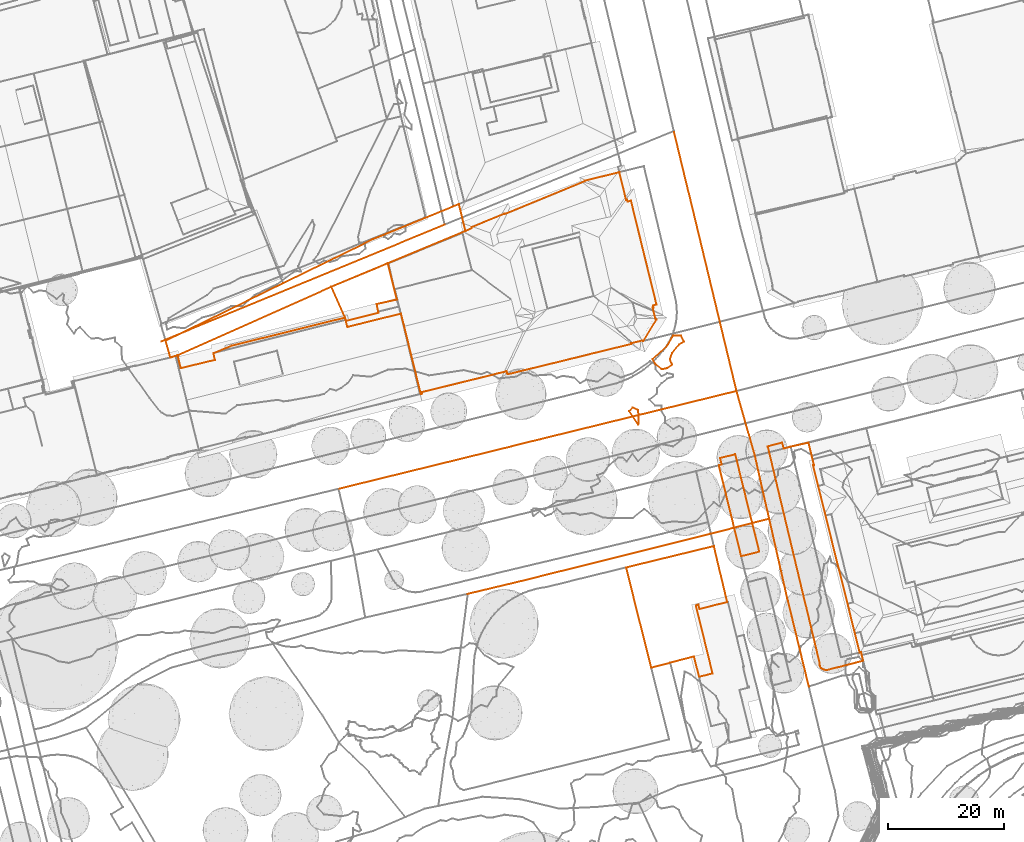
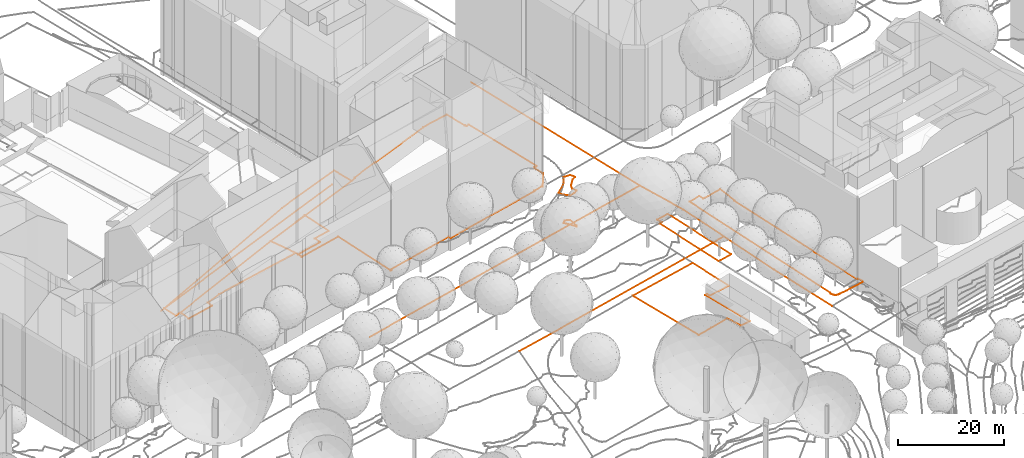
# Not in any storey, part 173 of 494: 14 proxies.
"""IFC2X3 model written with IfcOpenShell, lengths in metres."""

from ifc_helpers import new_model, entity, si_unit, frame, origin_with_axes, place, context, subcontext, project, element, save


model = new_model("IFC2X3")

# Units and contexts
model_context = context("Model", 3, precision=1e-05, world=origin_with_axes())
body_context = subcontext(model_context, "Body", "Model", "MODEL_VIEW")
ifc_project = project(units=[si_unit("AREAUNIT", "SQUARE_METRE"), si_unit("LENGTHUNIT", "METRE")], contexts=[model_context])

# Proxies
proxy_1_placement = place(None, frame((277.8057320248, 418.383730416, 541.403), z_axis=(0.0, 0.0, 1.0), x_axis=(1.0, 0.0, 0.0)))
element("IfcBuildingElementProxy", 1, at=proxy_1_placement, Name="Road 7", ObjectType="NOTDEFINED", context=body_context, shape_type="GeometricCurveSet", body=[
    entity("IfcGeometricCurveSet", [entity("IfcPolyline", [entity("IfcCartesianPoint", [0.0, 0.0, 0.0]), entity("IfcCartesianPoint", [10.7860000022, -44.7249986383, -0.402])])]),
])
proxy_2_placement = place(None, frame((220.1377320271, 356.831732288, 540.343), z_axis=(0.0, 0.0, 1.0), x_axis=(1.0, 0.0, 0.0)))
element("IfcBuildingElementProxy", 2, at=proxy_2_placement, Name="Road 9", ObjectType="NOTDEFINED", context=body_context, shape_type="GeometricCurveSet", body=[
    entity("IfcGeometricCurveSet", [entity("IfcPolyline", [entity("IfcCartesianPoint", [0.0, 0.0, 0.0]), entity("IfcCartesianPoint", [34.6149999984, 8.5089997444, 0.333]), entity("IfcCartesianPoint", [68.4539999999, 16.8269994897, 0.658])])]),
])
proxy_3_placement = place(None, frame((294.2087320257, 351.6867324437, 540.681), z_axis=(0.0, 0.0, 1.0), x_axis=(1.0, 0.0, 0.0)))
element("IfcBuildingElementProxy", 3, at=proxy_3_placement, Name="Road 33", ObjectType="NOTDEFINED", context=body_context, shape_type="GeometricCurveSet", body=[
    entity("IfcGeometricCurveSet", [entity("IfcPolyline", [entity("IfcCartesianPoint", [0.0, 0.0, 0.0]), entity("IfcCartesianPoint", [3.0949999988, -13.5999995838, -0.498]), entity("IfcCartesianPoint", [6.818, -28.8359991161, -0.878])])]),
])
proxy_4_placement = place(None, frame((288.591732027, 373.6587317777, 541.001), z_axis=(0.0, 0.0, 1.0), x_axis=(1.0, 0.0, 0.0)))
element("IfcBuildingElementProxy", 4, at=proxy_4_placement, Name="Road 56", ObjectType="NOTDEFINED", context=body_context, shape_type="GeometricCurveSet", body=[
    entity("IfcGeometricCurveSet", [entity("IfcPolyline", [entity("IfcCartesianPoint", [0.0, 0.0, 0.0]), entity("IfcCartesianPoint", [3.1319999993, -11.0489996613, 0.079]), entity("IfcCartesianPoint", [5.6169999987, -21.9719993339, -0.32])])]),
])
proxy_5_placement = place(None, frame((242.3617320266, 338.7697328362, 540.332), z_axis=(0.0, 0.0, 1.0), x_axis=(1.0, 0.0, 0.0)))
element("IfcBuildingElementProxy", 5, at=proxy_5_placement, Name="Road 63", ObjectType="NOTDEFINED", context=body_context, shape_type="GeometricCurveSet", body=[
    entity("IfcGeometricCurveSet", [entity("IfcPolyline", [entity("IfcCartesianPoint", [51.8469999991, 12.9169996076, 0.349]), entity("IfcCartesianPoint", [41.7259999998, 10.329999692, 0.329]), entity("IfcCartesianPoint", [10.5949999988, 2.5469999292, 0.093]), entity("IfcCartesianPoint", [0.0, 0.0, 0.0])])]),
])
proxy_6_placement = place(None, frame((189.5057320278, 382.143731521, 541.718), z_axis=(0.0, 0.0, 1.0), x_axis=(1.0, 0.0, 0.0)))
element("IfcBuildingElementProxy", 6, at=proxy_6_placement, Name="Road 88", ObjectType="NOTDEFINED", context=body_context, shape_type="GeometricCurveSet", body=[
    entity("IfcGeometricCurveSet", [entity("IfcPolyline", [entity("IfcCartesianPoint", [0.0, 0.0, 0.0]), entity("IfcCartesianPoint", [48.8959999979, 20.1329993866, -0.228])])]),
])
proxy_7_placement = place(None, frame((192.4787320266, 379.7927160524, 541.7905563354), z_axis=(0.0, 0.0, 1.0), x_axis=(1.0, 0.0, 0.0)))
element("IfcBuildingElementProxy", 7, at=proxy_7_placement, Name="Roads Outline 63", ObjectType="NOTDEFINED", context=body_context, shape_type="GeometricCurveSet", body=[
    entity("IfcGeometricCurveSet", [entity("IfcPolyline", [entity("IfcCartesianPoint", [0.0, 0.0, 0.0]), entity("IfcCartesianPoint", [26.4180000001, 11.7890000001, -0.0218499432]), entity("IfcCartesianPoint", [36.125, 15.831, 0.0800043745]), entity("IfcCartesianPoint", [37.6910000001, 9.5970000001, -0.2802144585]), entity("IfcCartesianPoint", [34.2110000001, 8.811, -0.3226159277]), entity("IfcCartesianPoint", [34.5490000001, 7.3160000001, -0.3870739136]), entity("IfcCartesianPoint", [28.932, 5.9170000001, -0.3695532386]), entity("IfcCartesianPoint", [28.7889999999, 6.4890000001, -0.3444947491]), entity("IfcCartesianPoint", [9.3020000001, 1.6430000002, -0.0586466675]), entity("IfcCartesianPoint", [6.1359999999, 0.368, -0.1306370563]), entity("IfcCartesianPoint", [6.423, -0.781, -0.215636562]), entity("IfcCartesianPoint", [0.5380000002, -2.216, -0.197830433]), entity("IfcCartesianPoint", [0.0720000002, -0.3049999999, -0.0272028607]), entity("IfcCartesianPoint", [0.0, 0.0, 0.0])])]),
])
proxy_8_placement = place(None, frame((269.6147320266, 343.3117160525, 540.7594516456), z_axis=(0.0, 0.0, 1.0), x_axis=(1.0, 0.0, 0.0)))
element("IfcBuildingElementProxy", 8, at=proxy_8_placement, Name="Roads Outline 64", ObjectType="NOTDEFINED", context=body_context, shape_type="GeometricCurveSet", body=[
    entity("IfcGeometricCurveSet", [entity("IfcPolyline", [entity("IfcCartesianPoint", [0.0, 0.0, 0.0]), entity("IfcCartesianPoint", [15.0810000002, 3.686, 0.0234501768]), entity("IfcCartesianPoint", [17.3670000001, -5.9620000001, -0.1599027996]), entity("IfcCartesianPoint", [12.5960000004, -7.1359999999, -0.0687515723]), entity("IfcCartesianPoint", [12.4199999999, -6.419, -0.0547311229]), entity("IfcCartesianPoint", [11.983, -6.527, -0.0555942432]), entity("IfcCartesianPoint", [14.8630000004, -18.227, -0.0034118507]), entity("IfcCartesianPoint", [12.5320000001, -18.801, 0.1840342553]), entity("IfcCartesianPoint", [11.6690000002, -15.294, -0.0178318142]), entity("IfcCartesianPoint", [7.5800000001, -16.3770000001, -0.0804103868]), entity("IfcCartesianPoint", [4.3130000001, -17.243, -0.0383701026]), entity("IfcCartesianPoint", [0.0, 0.0, 0.0])])]),
])
proxy_9_placement = place(None, frame((293.9627320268, 364.1367160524, 541.1862244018), z_axis=(0.0, 0.0, 1.0), x_axis=(1.0, 0.0, 0.0)))
element("IfcBuildingElementProxy", 9, at=proxy_9_placement, Name="Roads Outline 67", ObjectType="NOTDEFINED", context=body_context, shape_type="GeometricCurveSet", body=[
    entity("IfcGeometricCurveSet", [entity("IfcPolyline", [entity("IfcCartesianPoint", [0.0, 0.0, 0.0]), entity("IfcCartesianPoint", [2.4720000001, 0.6540000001, 0.0524887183]), entity("IfcCartesianPoint", [2.7519999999, -0.361, 0.0005160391]), entity("IfcCartesianPoint", [3.9550000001, -0.05, -0.0993615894]), entity("IfcCartesianPoint", [7.0009999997, 0.6429999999, 0.027078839]), entity("IfcCartesianPoint", [7.952, -3.1899999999, -0.5648132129]), entity("IfcCartesianPoint", [7.7879999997, -3.2309999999, -0.5643892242]), entity("IfcCartesianPoint", [15.8149999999, -35.4609999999, -1.78621427]), entity("IfcCartesianPoint", [16.048, -35.4029999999, -1.7453598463]), entity("IfcCartesianPoint", [16.4169999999, -36.8740000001, -1.7251284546]), entity("IfcCartesianPoint", [12.1549999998, -37.959, -1.578550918]), entity("IfcCartesianPoint", [10.5060000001, -38.379, -1.4810157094]), entity("IfcCartesianPoint", [10.23, -38.4720000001, -1.474998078]), entity("IfcCartesianPoint", [9.9389999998, -38.4890000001, -1.4721529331]), entity("IfcCartesianPoint", [9.6540000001, -38.4299999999, -1.4689190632]), entity("IfcCartesianPoint", [9.395, -38.297, -1.4598351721]), entity("IfcCartesianPoint", [9.1799999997, -38.101, -1.4424281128]), entity("IfcCartesianPoint", [9.023, -37.855, -1.4217861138]), entity("IfcCartesianPoint", [8.9369999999, -37.577, -1.4010787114]), entity("IfcCartesianPoint", [8.9269999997, -37.2860000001, -1.4021518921]), entity("IfcCartesianPoint", [0.2420000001, -1.01, -0.044099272]), entity("IfcCartesianPoint", [0.0, 0.0, 0.0])])]),
])
proxy_10_placement = place(None, frame((285.5427320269, 360.8847160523, 541.1189967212), z_axis=(0.0, 0.0, 1.0), x_axis=(1.0, 0.0, 0.0)))
element("IfcBuildingElementProxy", 10, at=proxy_10_placement, Name="Roads Outline 76", ObjectType="NOTDEFINED", context=body_context, shape_type="GeometricCurveSet", body=[
    entity("IfcGeometricCurveSet", [entity("IfcPolyline", [entity("IfcCartesianPoint", [0.0, 0.0, 0.0]), entity("IfcCartesianPoint", [0.5079999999, 0.1320000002, 0.0060651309]), entity("IfcCartesianPoint", [0.2249999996, 1.2440000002, 0.0309743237]), entity("IfcCartesianPoint", [2.8319999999, 1.8960000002, 0.0465224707]), entity("IfcCartesianPoint", [3.1009999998, 0.8020000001, 0.063706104]), entity("IfcCartesianPoint", [6.9609999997, -14.8599999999, -0.5058277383]), entity("IfcCartesianPoint", [4.3229999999, -15.5089999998, -0.5332584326]), entity("IfcCartesianPoint", [3.8429999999, -15.6269999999, -0.5321510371]), entity("IfcCartesianPoint", [0.0, 0.0, 0.0])])]),
])
proxy_11_placement = place(None, frame((190.4017320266, 382.3057160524, 541.965107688), z_axis=(0.0, 0.0, 1.0), x_axis=(1.0, 0.0, 0.0)))
element("IfcBuildingElementProxy", 11, at=proxy_11_placement, Name="Cadastre 9", ObjectType="NOTDEFINED", context=body_context, shape_type="GeometricCurveSet", body=[
    entity("IfcGeometricCurveSet", [entity("IfcPolyline", [entity("IfcCartesianPoint", [0.0, 0.0, 0.0]), entity("IfcCartesianPoint", [20.2220000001, 9.8970000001, -0.0373504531]), entity("IfcCartesianPoint", [35.6290000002, 17.4369999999, 0.0043016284]), entity("IfcCartesianPoint", [49.4879999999, 23.1159999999, -0.2728109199]), entity("IfcCartesianPoint", [50.4410000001, 23.5079999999, -0.2827955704]), entity("IfcCartesianPoint", [51.574, 18.8870000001, -0.279586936]), entity("IfcCartesianPoint", [28.4950000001, 9.2760000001, -0.1964012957]), entity("IfcCartesianPoint", [2.077, -2.513, -0.1745513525]), entity("IfcCartesianPoint", [1.727, -2.6029999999, -0.1765365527]), entity("IfcCartesianPoint", [1.3770000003, -2.693, -0.1886758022]), entity("IfcCartesianPoint", [1.3900000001, -2.7449999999, -0.1927232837]), entity("IfcCartesianPoint", [0.8190000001, -2.885, -0.2105606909]), entity("IfcCartesianPoint", [0.0, 0.0, 0.0])])]),
])
proxy_12_placement = place(None, frame((218.8967320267, 391.5817160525, 541.7687063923), z_axis=(0.0, 0.0, 1.0), x_axis=(1.0, 0.0, 0.0)))
element("IfcBuildingElementProxy", 12, at=proxy_12_placement, Name="Cadastre 13", ObjectType="NOTDEFINED", context=body_context, shape_type="GeometricCurveSet", body=[
    entity("IfcGeometricCurveSet", [entity("IfcPolyline", [entity("IfcCartesianPoint", [0.0, 0.0, 0.0]), entity("IfcCartesianPoint", [23.0789999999, 9.611, -0.0831856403]), entity("IfcCartesianPoint", [24.1400000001, 10.054, -0.0684037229]), entity("IfcCartesianPoint", [24.1009999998, 10.2519999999, -0.0629146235]), entity("IfcCartesianPoint", [29.7990000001, 12.5870000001, 0.0131057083]), entity("IfcCartesianPoint", [29.8420000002, 12.496, 0.010776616]), entity("IfcCartesianPoint", [43.5839999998, 18.145, -0.1656864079]), entity("IfcCartesianPoint", [43.5619999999, 18.236, -0.1663421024]), entity("IfcCartesianPoint", [49.5350000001, 19.709, -0.2483118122]), entity("IfcCartesianPoint", [50.71, 14.942, -0.2601009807]), entity("IfcCartesianPoint", [50.8530000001, 14.9879999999, -0.2608580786]), entity("IfcCartesianPoint", [50.9350000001, 14.6499999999, -0.2651700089]), entity("IfcCartesianPoint", [51.5389999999, 14.7929999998, -0.2720114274]), entity("IfcCartesianPoint", [55.9350000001, -3.0590000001, -0.4742520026]), entity("IfcCartesianPoint", [55.3390000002, -3.203, -0.4811087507]), entity("IfcCartesianPoint", [55.4169999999, -3.5420000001, -0.4814536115]), entity("IfcCartesianPoint", [55.27, -3.571, -0.4837766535]), entity("IfcCartesianPoint", [55.7519999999, -5.5120000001, -0.4954217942]), entity("IfcCartesianPoint", [55.912, -5.608, -0.4988973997]), entity("IfcCartesianPoint", [53.648, -9.338, -0.577757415]), entity("IfcCartesianPoint", [53.477, -9.243, -0.5734324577]), entity("IfcCartesianPoint", [51.5559999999, -9.7120000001, -0.5902300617]), entity("IfcCartesianPoint", [51.5810000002, -9.848, -0.5918056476]), entity("IfcCartesianPoint", [30.304, -15.0530000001, -0.7688679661]), entity("IfcCartesianPoint", [30.179, -14.5260000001, -0.7427499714]), entity("IfcCartesianPoint", [15.5249999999, -18.1270000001, -0.9429026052]), entity("IfcCartesianPoint", [15.5819999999, -18.3760000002, -0.9464270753]), entity("IfcCartesianPoint", [15.4029999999, -18.4200000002, -0.9519457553]), entity("IfcCartesianPoint", [12.0, -4.6200000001, -0.3570119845]), entity("IfcCartesianPoint", [2.7710000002, -6.9000000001, -0.39278271]), entity("IfcCartesianPoint", [2.3709999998, -5.3, -0.322644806]), entity("IfcCartesianPoint", [0.0, 0.0, 0.0])])]),
])
proxy_13_placement = place(None, frame((274.1810345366, 379.1707160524, 541.0), z_axis=(0.0, 0.0, 1.0), x_axis=(1.0, 0.0, 0.0)))
element("IfcBuildingElementProxy", 13, at=proxy_13_placement, Name="Contour Line 541.0 m", ObjectType="NOTDEFINED", context=body_context, shape_type="GeometricCurveSet", body=[
    entity("IfcGeometricCurveSet", [entity("IfcPolyline", [entity("IfcCartesianPoint", [2.4966974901, -1.5665467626, 0.0]), entity("IfcCartesianPoint", [3.3191517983, -1.0, 0.0]), entity("IfcCartesianPoint", [2.9424806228, 0.0, 0.0]), entity("IfcCartesianPoint", [3.3118925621, 1.0, 0.0]), entity("IfcCartesianPoint", [4.4966974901, 2.5005727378, 0.0]), entity("IfcCartesianPoint", [5.3449465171, 3.0, 0.0]), entity("IfcCartesianPoint", [4.870434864, 4.0, 0.0]), entity("IfcCartesianPoint", [3.4966974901, 4.0478983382, 0.0]), entity("IfcCartesianPoint", [2.4966974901, 2.3007856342, 0.0]), entity("IfcCartesianPoint", [0.0, 0.0, 0.0]), entity("IfcCartesianPoint", [0.4966974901, -0.9295426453, 0.0]), entity("IfcCartesianPoint", [1.4966974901, -1.7692307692, 0.0]), entity("IfcCartesianPoint", [2.4966974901, -1.5665467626, 0.0])])]),
])
proxy_14_placement = place(None, frame((270.1221764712, 370.1707160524, 541.0), z_axis=(0.0, 0.0, 1.0), x_axis=(1.0, 0.0, 0.0)))
element("IfcBuildingElementProxy", 14, at=proxy_14_placement, Name="Contour Line 541.0 m", ObjectType="NOTDEFINED", context=body_context, shape_type="GeometricCurveSet", body=[
    entity("IfcGeometricCurveSet", [entity("IfcPolyline", [entity("IfcCartesianPoint", [1.641867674, -2.0, 0.0]), entity("IfcCartesianPoint", [1.5555555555, -2.2493702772, 0.0]), entity("IfcCartesianPoint", [0.0, 0.0, 0.0]), entity("IfcCartesianPoint", [0.5555555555, 0.6346153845, 0.0]), entity("IfcCartesianPoint", [1.5555555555, 0.2228915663, 0.0]), entity("IfcCartesianPoint", [1.641867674, -2.0, 0.0])])]),
])

save(model, "model.ifc")
